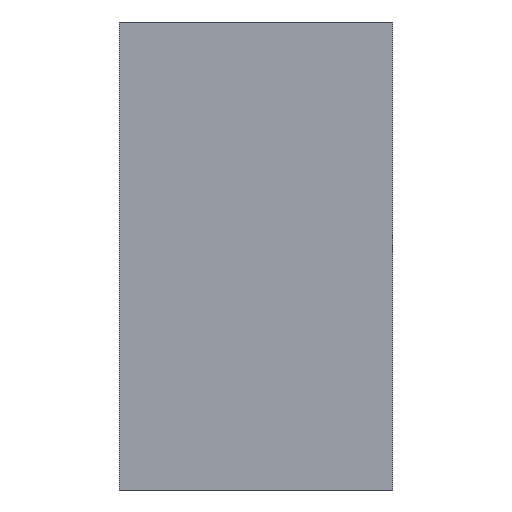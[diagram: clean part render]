
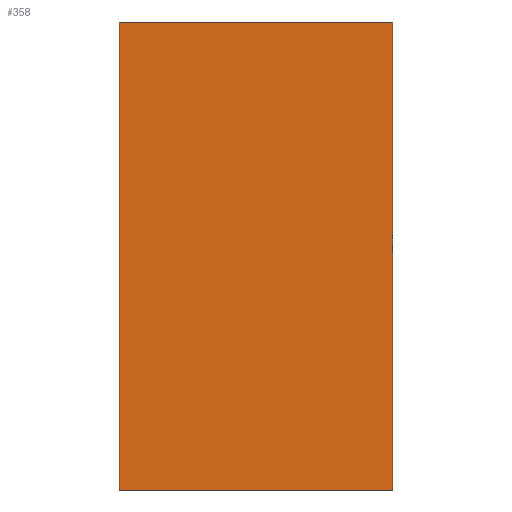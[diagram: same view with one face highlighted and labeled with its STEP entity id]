
A CAD part, left-side view. The second image highlights one B-rep face of the part: STEP entity #358.
In plain terms, the highlighted planar face has unit normal (-1, 0, 0).
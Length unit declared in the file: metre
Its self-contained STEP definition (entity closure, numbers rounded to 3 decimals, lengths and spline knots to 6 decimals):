
#44=ORIENTED_EDGE('',*,*,#125,.F.);
#45=ORIENTED_EDGE('',*,*,#128,.T.);
#46=ORIENTED_EDGE('',*,*,#130,.T.);
#47=ORIENTED_EDGE('',*,*,#131,.F.);
#125=EDGE_CURVE('',#172,#173,#205,.T.);
#128=EDGE_CURVE('',#172,#174,#208,.T.);
#130=EDGE_CURVE('',#174,#175,#210,.T.);
#131=EDGE_CURVE('',#173,#175,#211,.T.);
#172=VERTEX_POINT('',#536);
#173=VERTEX_POINT('',#538);
#174=VERTEX_POINT('',#542);
#175=VERTEX_POINT('',#546);
#205=LINE('',#537,#253);
#208=LINE('',#543,#256);
#210=LINE('',#547,#258);
#211=LINE('',#549,#259);
#253=VECTOR('',#431,1.);
#256=VECTOR('',#436,1.);
#258=VECTOR('',#440,1.);
#259=VECTOR('',#443,1.);
#292=EDGE_LOOP('',(#44,#45,#46,#47));
#316=FACE_BOUND('',#292,.T.);
#337=PLANE('',#392);
#358=ADVANCED_FACE('',(#316),#337,.T.);
#392=AXIS2_PLACEMENT_3D('',#550,#444,#445);
#431=DIRECTION('',(0.,0.,-1.));
#436=DIRECTION('',(0.,1.,0.));
#440=DIRECTION('',(0.,0.,-1.));
#443=DIRECTION('',(0.,1.,0.));
#444=DIRECTION('',(-1.,0.,0.));
#445=DIRECTION('',(0.,-1.,0.));
#536=CARTESIAN_POINT('',(0.080178,-0.036313,0.075789));
#537=CARTESIAN_POINT('',(0.080178,-0.036313,0.038796));
#538=CARTESIAN_POINT('',(0.080178,-0.036313,0.001803));
#542=CARTESIAN_POINT('',(0.080178,0.006892,0.075789));
#543=CARTESIAN_POINT('',(0.080178,-0.01471,0.075789));
#546=CARTESIAN_POINT('',(0.080178,0.006892,0.001803));
#547=CARTESIAN_POINT('',(0.080178,0.006892,0.038796));
#549=CARTESIAN_POINT('',(0.080178,-0.01471,0.001803));
#550=CARTESIAN_POINT('',(0.080178,-0.014804,0.037895));
